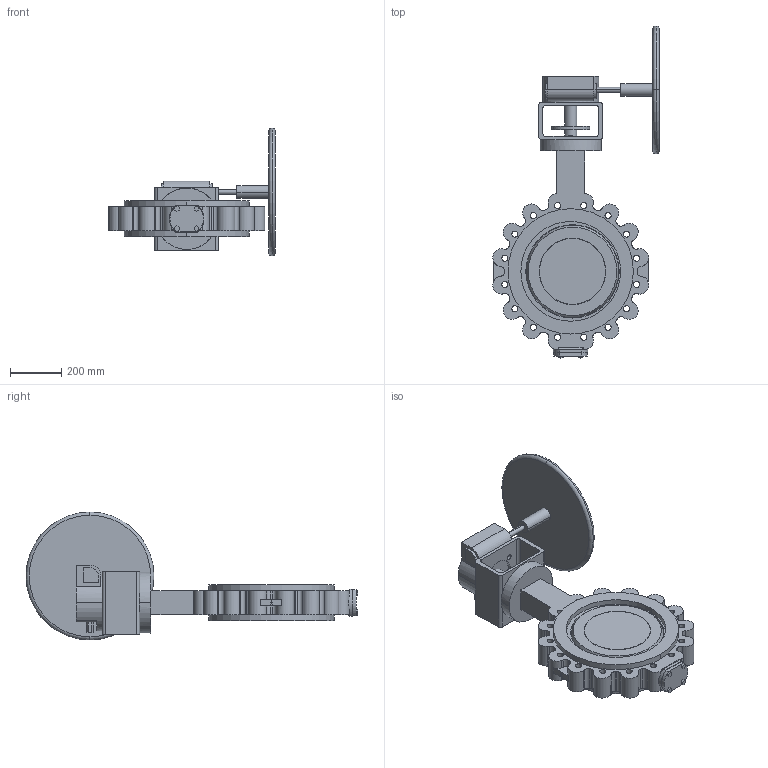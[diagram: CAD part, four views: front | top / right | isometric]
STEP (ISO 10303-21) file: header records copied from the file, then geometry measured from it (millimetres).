
FILE_DESCRIPTION( ( '' ), '1' );
FILE_NAME( 'F:/DE-SHS/TB/OR/04-Sonstiges/daten/Excel/mneugeba/018_ZETRIX-PN16_Getriebe-Rotork/c000006436.stp', '2016-09-19T06:28:32', ( '' ), ( '' ), ' ', ' ', ' ' );
FILE_SCHEMA( ( 'CONFIG_CONTROL_DESIGN' ) );
Length unit declared in the file: millimetre
Products named in the file (2): 1; 2
Bounding box: 650.65 x 1297.7 x 500 mm (x, y, z)
Volume: 38930791.5 mm3; surface area: 2357717.3 mm2
Topology: 2 solids, 2 shells, 362 faces, 989 edges, 659 vertices
Faces by surface type: cylinder 210, plane 140, sphere 4, cone 4, torus 4
Entity records: 12740 total; most frequent: CARTESIAN_POINT 2963, DIRECTION 2148, ORIENTED_EDGE 1978, EDGE_CURVE 989, AXIS2_PLACEMENT_3D 830, VERTEX_POINT 659, LINE 488, VECTOR 488
